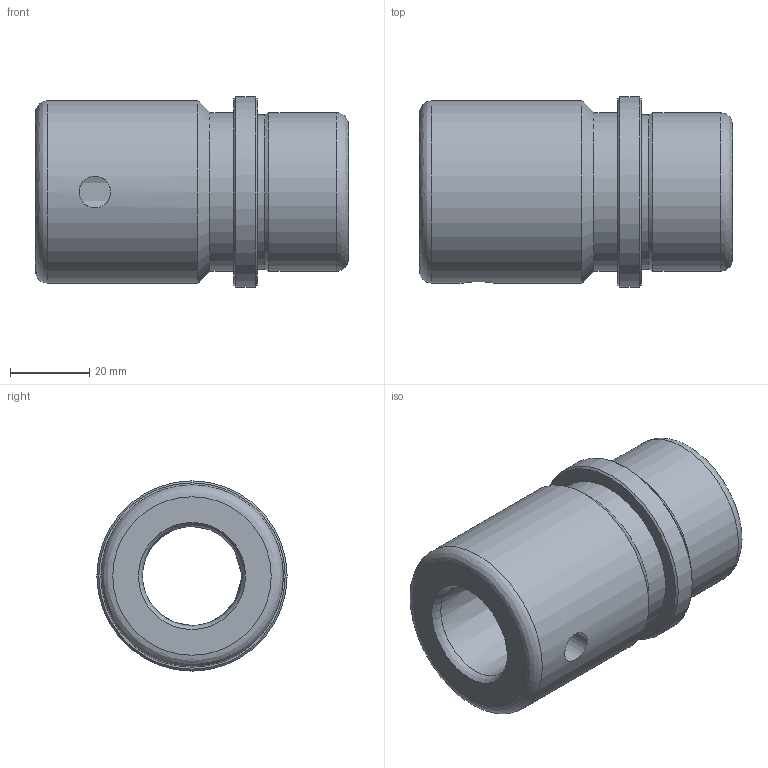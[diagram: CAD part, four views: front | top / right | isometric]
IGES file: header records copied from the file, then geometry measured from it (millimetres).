
Global section: file name: BEBA25-1.ipt; native system: Autodesk Inventor 2021; preprocessor: unknown; author: SM; date: 20220119.054234; units: millimetre
Bounding box: 79 x 48 x 48 mm (x, y, z)
Volume: 79688.4 mm3; surface area: 33278.1 mm2
Topology: 2 solids, 2 shells, 22 faces, 58 edges, 37 vertices
Faces by surface type: revolution 8, cylinder 6, plane 4, cone 4
Full cylindrical faces by diameter (mm): 27 x1, 39 x1, 40 x2, 46 x1, 48 x1
